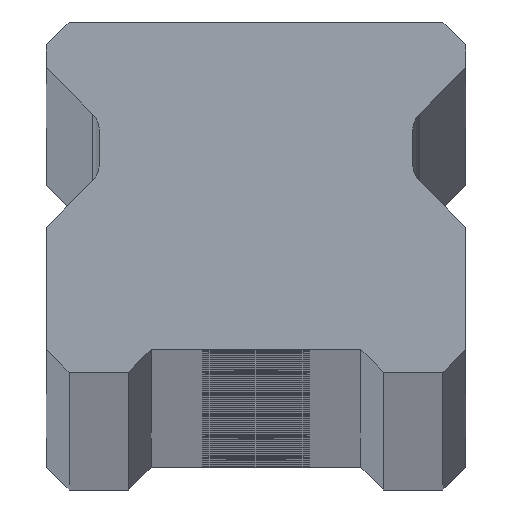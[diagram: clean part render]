
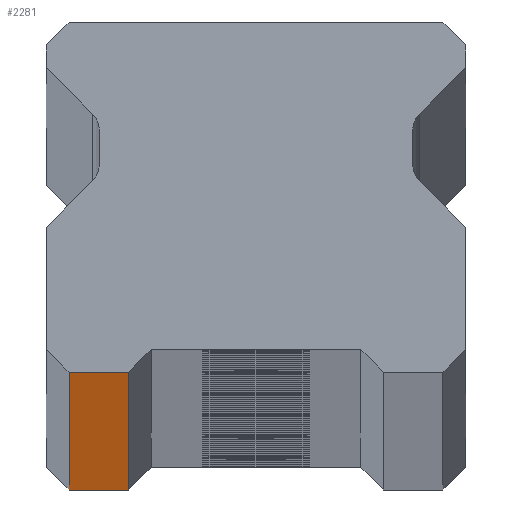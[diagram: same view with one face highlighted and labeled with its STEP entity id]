
A CAD part, top view. The second image highlights one B-rep face of the part: STEP entity #2281.
In plain terms, the highlighted planar face has unit normal (0, -1, 0).
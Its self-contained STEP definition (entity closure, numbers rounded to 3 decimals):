
#304 = DIRECTION ( 'NONE',  ( 1., 0., 0. ) ) ;
#826 = DIRECTION ( 'NONE',  ( 1., 0., 0. ) ) ;
#1210 = LINE ( 'NONE', #6386, #4947 ) ;
#2140 = VERTEX_POINT ( 'NONE', #2154 ) ;
#2154 = CARTESIAN_POINT ( 'NONE',  ( -10.25, 0., 1850. ) ) ;
#2271 = DIRECTION ( 'NONE',  ( 0., 0., 1. ) ) ;
#2281 = ADVANCED_FACE ( 'NONE', ( #11077 ), #4310, .F. ) ;
#2438 = CARTESIAN_POINT ( 'NONE',  ( -7., 0., -1850. ) ) ;
#2558 = EDGE_CURVE ( 'NONE', #12190, #11252, #11067, .T. ) ;
#3329 = AXIS2_PLACEMENT_3D ( 'NONE', #7246, #8302, #11991 ) ;
#4310 = PLANE ( 'NONE',  #3329 ) ;
#4618 = LINE ( 'NONE', #2438, #5084 ) ;
#4869 = VECTOR ( 'NONE', #304, 1000. ) ;
#4947 = VECTOR ( 'NONE', #826, 1000. ) ;
#4965 = CARTESIAN_POINT ( 'NONE',  ( -10.25, 0., -1850. ) ) ;
#5084 = VECTOR ( 'NONE', #2271, 1000. ) ;
#5536 = CARTESIAN_POINT ( 'NONE',  ( -7., 0., -1850. ) ) ;
#5815 = CARTESIAN_POINT ( 'NONE',  ( 11.5, 0., -1850. ) ) ;
#6386 = CARTESIAN_POINT ( 'NONE',  ( 11.5, 0., 1850. ) ) ;
#6395 = CARTESIAN_POINT ( 'NONE',  ( -7., 0., 1850. ) ) ;
#6823 = VERTEX_POINT ( 'NONE', #6395 ) ;
#7158 = ORIENTED_EDGE ( 'NONE', *, *, #7725, .T. ) ;
#7246 = CARTESIAN_POINT ( 'NONE',  ( 11.5, 0., 1850. ) ) ;
#7642 = LINE ( 'NONE', #9533, #12080 ) ;
#7725 = EDGE_CURVE ( 'NONE', #2140, #12190, #7642, .T. ) ;
#8302 = DIRECTION ( 'NONE',  ( 0., 1., 0. ) ) ;
#8341 = ORIENTED_EDGE ( 'NONE', *, *, #10889, .F. ) ;
#9533 = CARTESIAN_POINT ( 'NONE',  ( -10.25, 0., 1850. ) ) ;
#10056 = ORIENTED_EDGE ( 'NONE', *, *, #11130, .T. ) ;
#10129 = EDGE_LOOP ( 'NONE', ( #10217, #10056, #8341, #7158 ) ) ;
#10217 = ORIENTED_EDGE ( 'NONE', *, *, #2558, .T. ) ;
#10889 = EDGE_CURVE ( 'NONE', #2140, #6823, #1210, .T. ) ;
#11067 = LINE ( 'NONE', #5815, #4869 ) ;
#11077 = FACE_OUTER_BOUND ( 'NONE', #10129, .T. ) ;
#11130 = EDGE_CURVE ( 'NONE', #11252, #6823, #4618, .T. ) ;
#11252 = VERTEX_POINT ( 'NONE', #5536 ) ;
#11472 = DIRECTION ( 'NONE',  ( 0., 0., -1. ) ) ;
#11991 = DIRECTION ( 'NONE',  ( -1., 0., 0. ) ) ;
#12080 = VECTOR ( 'NONE', #11472, 1000. ) ;
#12190 = VERTEX_POINT ( 'NONE', #4965 ) ;
